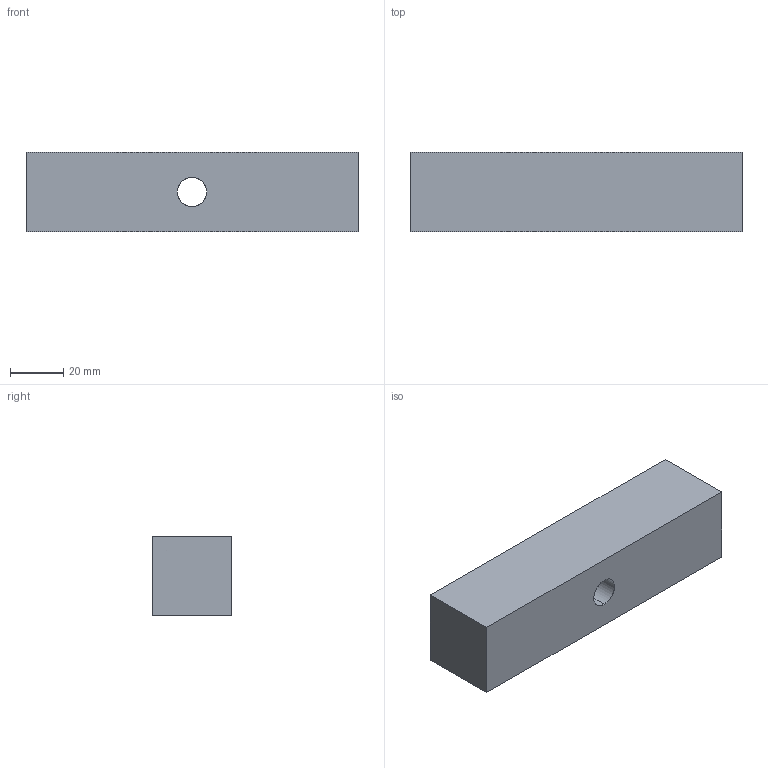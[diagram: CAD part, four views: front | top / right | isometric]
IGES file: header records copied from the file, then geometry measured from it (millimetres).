
Start section: START RECORD GO HERE.
Global section: file name: 760-2534090.igs; native system: DASSAULT SYSTEMES CATIA V5 R20 - www.3ds.com; preprocessor: CATIA Version 5 Release 20 ; author: Utente; organization: NB04-ASUS; date: 20200411.172505; units: millimetre
Bounding box: 125 x 30 x 30 mm (x, y, z)
Surface area: 17986 mm2 (no closed solid volume)
Topology: 0 solids, 0 shells, 11 faces, 48 edges, 48 vertices
Faces by surface type: extrusion 7, revolution 4
